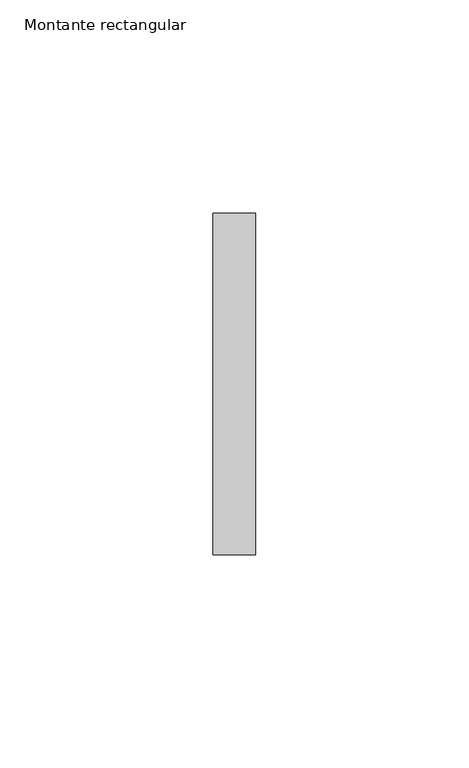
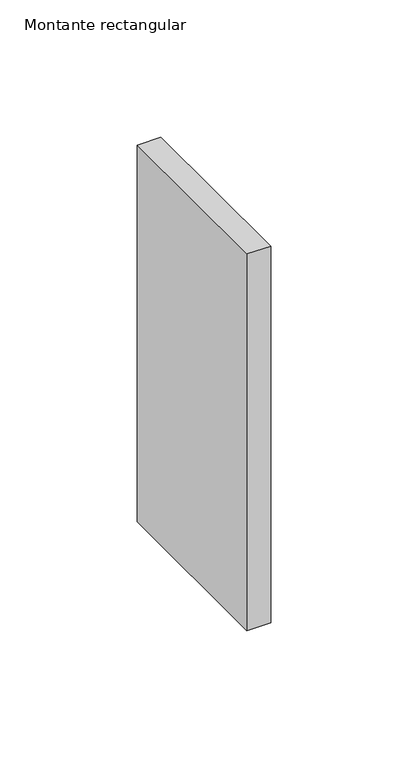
"""IFC4 building model written with IfcOpenShell, lengths in millimetres: member geometry, Montante rectangular : Junta de paves."""

from ifc_helpers import new_model, si_unit, frame, origin, place, context, project, spatial, polyline, outline, extrude, source, transform, mapped, element, save


def montante_rectangular_1abb0f4d(model_context):
    return source(origin(), model_context, "Body", "SweptSolid", [
        extrude(outline(polyline([(0.0, 40.0), (0.0, -40.0), (-10.0, -40.0), (-10.0, 40.0), (0.0, 40.0)])), frame((0.0, 0.0, -167.7385141), z_axis=(0.0, 0.0, 1.0), x_axis=(1.0, 0.0, 0.0)), (0.0, 0.0, 1.0), 167.7385141),
    ])


if __name__ == "__main__":
    model = new_model("IFC4")
    model_context = context("Model", 3, world=origin())
    ifc_project = project(units=[si_unit("LENGTHUNIT", "METRE", prefix="MILLI")], contexts=[model_context])
    site = spatial("IfcSite", under=ifc_project)
    building = spatial("IfcBuilding", under=site)
    placement = place(None, origin())
    montante_rectangular_shape = montante_rectangular_1abb0f4d(model_context)
    element("IfcMember", 1, ObjectType="Montante rectangular : Junta de paves", at=placement, inside=building, context=model_context, shape_type="MappedRepresentation", body=[
        mapped(montante_rectangular_shape, transform((0.0, 0.0, 0.0), x_axis=(1.0, 0.0, 0.0), y_axis=(0.0, 1.0, 0.0), z_axis=(0.0, 0.0, 1.0))),
    ])
    save(model, "model.ifc")
